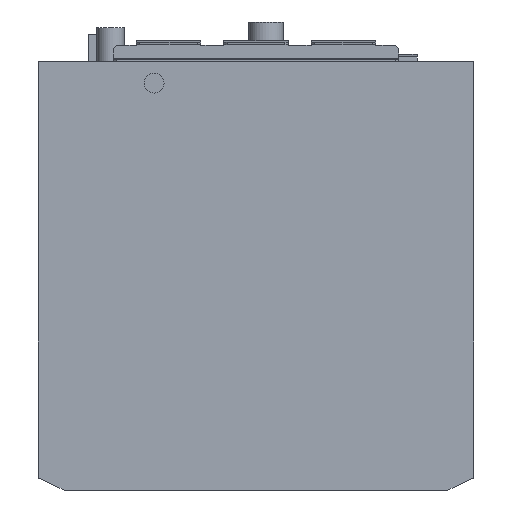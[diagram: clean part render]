
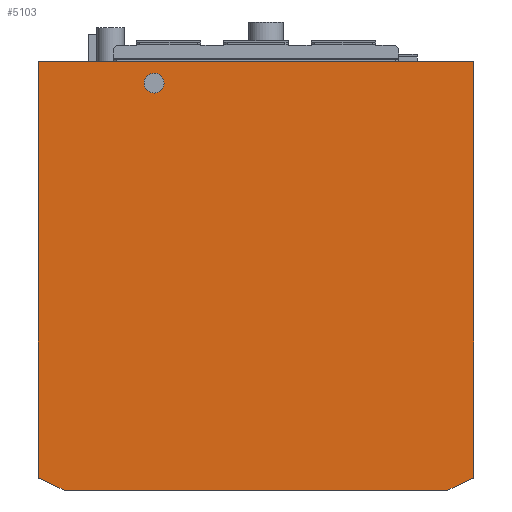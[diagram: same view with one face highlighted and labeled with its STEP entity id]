
A CAD part, front view. The second image highlights one B-rep face of the part: STEP entity #5103.
In plain terms, the highlighted planar face has unit normal (0, -1, 0).
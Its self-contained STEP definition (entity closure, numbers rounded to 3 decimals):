
#3561=DIRECTION('',(1.,0.,0.));
#3562=VECTOR('',#3561,305.);
#3563=CARTESIAN_POINT('',(-152.5,0.,0.));
#3564=LINE('',#3563,#3562);
#3568=DIRECTION('',(0.,0.,-1.));
#3569=VECTOR('',#3568,291.606);
#3570=CARTESIAN_POINT('',(152.5,0.,0.));
#3571=LINE('',#3570,#3569);
#3575=DIRECTION('',(-0.906,0.,-0.423));
#3576=VECTOR('',#3575,19.861);
#3577=CARTESIAN_POINT('',(152.5,0.,-291.606));
#3578=LINE('',#3577,#3576);
#3582=DIRECTION('',(-1.,0.,0.));
#3583=VECTOR('',#3582,269.);
#3584=CARTESIAN_POINT('',(134.5,0.,-300.));
#3585=LINE('',#3584,#3583);
#3589=DIRECTION('',(-0.906,0.,0.423));
#3590=VECTOR('',#3589,19.861);
#3591=CARTESIAN_POINT('',(-134.5,0.,-300.));
#3592=LINE('',#3591,#3590);
#3596=DIRECTION('',(0.,0.,1.));
#3597=VECTOR('',#3596,291.606);
#3598=CARTESIAN_POINT('',(-152.5,0.,-291.606));
#3599=LINE('',#3598,#3597);
#3603=CARTESIAN_POINT('',(-71.429,0.,-14.843));
#3604=DIRECTION('',(0.,1.,0.));
#3605=DIRECTION('',(-1.,0.,0.));
#3606=AXIS2_PLACEMENT_3D('',#3603,#3604,#3605);
#3611=CARTESIAN_POINT('',(-71.429,0.,-14.843));
#3612=DIRECTION('',(0.,1.,0.));
#3613=DIRECTION('',(1.,0.,0.));
#3614=AXIS2_PLACEMENT_3D('',#3611,#3612,#3613);
#4577=CARTESIAN_POINT('',(-152.5,0.,0.));
#4578=CARTESIAN_POINT('',(152.5,0.,0.));
#4579=VERTEX_POINT('',#4577);
#4580=VERTEX_POINT('',#4578);
#4581=CARTESIAN_POINT('',(152.5,0.,-291.606));
#4582=VERTEX_POINT('',#4581);
#4583=CARTESIAN_POINT('',(134.5,0.,-300.));
#4584=VERTEX_POINT('',#4583);
#4585=CARTESIAN_POINT('',(-134.5,0.,-300.));
#4586=VERTEX_POINT('',#4585);
#4587=CARTESIAN_POINT('',(-152.5,0.,-291.606));
#4588=VERTEX_POINT('',#4587);
#4769=CARTESIAN_POINT('',(-78.429,0.,-14.843));
#4770=CARTESIAN_POINT('',(-64.429,0.,-14.843));
#4771=VERTEX_POINT('',#4769);
#4772=VERTEX_POINT('',#4770);
#5084=CARTESIAN_POINT('',(0.,0.,-1.5));
#5085=DIRECTION('',(0.,1.,0.));
#5086=DIRECTION('',(0.,0.,-1.));
#5087=AXIS2_PLACEMENT_3D('',#5084,#5085,#5086);
#5088=PLANE('',#5087);
#5089=ORIENTED_EDGE('',*,*,#4846,.T.);
#5090=ORIENTED_EDGE('',*,*,#4968,.T.);
#5091=ORIENTED_EDGE('',*,*,#4989,.T.);
#5092=ORIENTED_EDGE('',*,*,#5010,.T.);
#5093=ORIENTED_EDGE('',*,*,#5051,.T.);
#5094=ORIENTED_EDGE('',*,*,#5071,.T.);
#5095=EDGE_LOOP('',(#5089,#5090,#5091,#5092,#5093,#5094));
#5096=FACE_OUTER_BOUND('',#5095,.F.);
#5098=ORIENTED_EDGE('',*,*,#5097,.F.);
#5100=ORIENTED_EDGE('',*,*,#5099,.F.);
#5101=EDGE_LOOP('',(#5098,#5100));
#5102=FACE_BOUND('',#5101,.F.);
#5103=ADVANCED_FACE('',(#5096,#5102),#5088,.F.);
#3607=CIRCLE('',#3606,7.);
#3615=CIRCLE('',#3614,7.);
#4846=EDGE_CURVE('',#4579,#4580,#3564,.T.);
#4968=EDGE_CURVE('',#4580,#4582,#3571,.T.);
#4989=EDGE_CURVE('',#4582,#4584,#3578,.T.);
#5010=EDGE_CURVE('',#4584,#4586,#3585,.T.);
#5051=EDGE_CURVE('',#4586,#4588,#3592,.T.);
#5071=EDGE_CURVE('',#4588,#4579,#3599,.T.);
#5097=EDGE_CURVE('',#4771,#4772,#3607,.T.);
#5099=EDGE_CURVE('',#4772,#4771,#3615,.T.);
